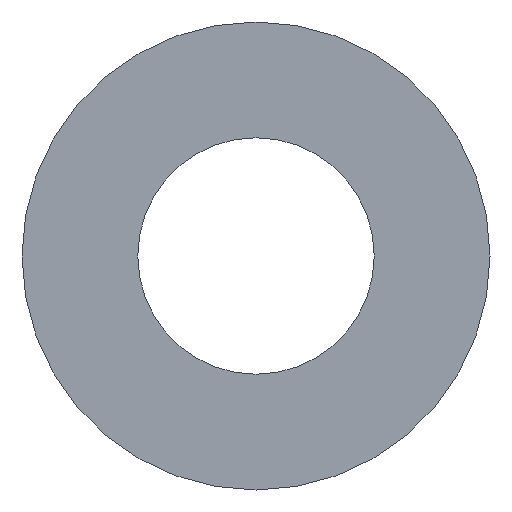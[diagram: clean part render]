
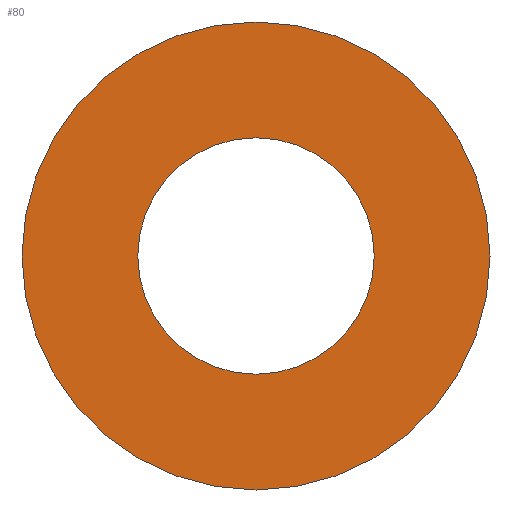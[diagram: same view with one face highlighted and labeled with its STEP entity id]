
A CAD part, front view. The second image highlights one B-rep face of the part: STEP entity #80.
In plain terms, the highlighted planar face has unit normal (0, -1, 0).
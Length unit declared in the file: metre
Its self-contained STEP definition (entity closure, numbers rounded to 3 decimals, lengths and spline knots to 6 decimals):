
#24=ORIENTED_EDGE('',*,*,#36,.T.);
#25=ORIENTED_EDGE('',*,*,#37,.F.);
#36=EDGE_CURVE('',#42,#42,#48,.T.);
#37=EDGE_CURVE('',#43,#43,#49,.T.);
#42=VERTEX_POINT('',#140);
#43=VERTEX_POINT('',#142);
#48=CIRCLE('',#100,0.006033);
#49=CIRCLE('',#101,0.003048);
#54=EDGE_LOOP('',(#24));
#55=EDGE_LOOP('',(#25));
#66=FACE_BOUND('',#54,.T.);
#67=FACE_BOUND('',#55,.T.);
#78=PLANE('',#99);
#80=ADVANCED_FACE('',(#66,#67),#78,.T.);
#99=AXIS2_PLACEMENT_3D('',#138,#113,#114);
#100=AXIS2_PLACEMENT_3D('',#139,#115,#116);
#101=AXIS2_PLACEMENT_3D('',#141,#117,#118);
#113=DIRECTION('',(0.,-1.,0.));
#114=DIRECTION('',(0.,0.,-1.));
#115=DIRECTION('',(0.,-1.,0.));
#116=DIRECTION('',(0.,0.,-1.));
#117=DIRECTION('',(0.,-1.,0.));
#118=DIRECTION('',(0.,0.,-1.));
#138=CARTESIAN_POINT('',(0.006033,0.,0.));
#139=CARTESIAN_POINT('',(0.,0.,0.));
#140=CARTESIAN_POINT('',(0.,0.,-0.006033));
#141=CARTESIAN_POINT('',(0.,0.,0.));
#142=CARTESIAN_POINT('',(0.,0.,-0.003048));
